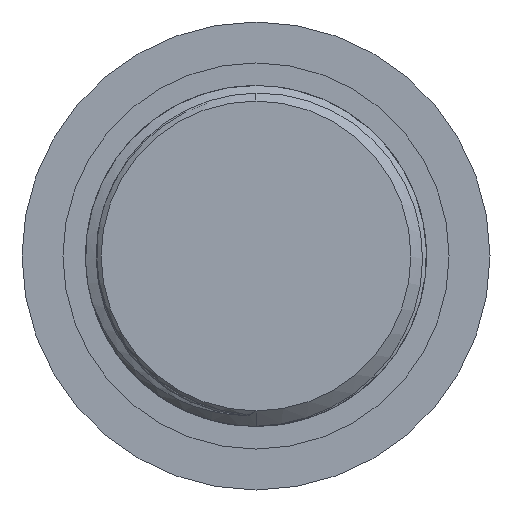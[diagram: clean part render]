
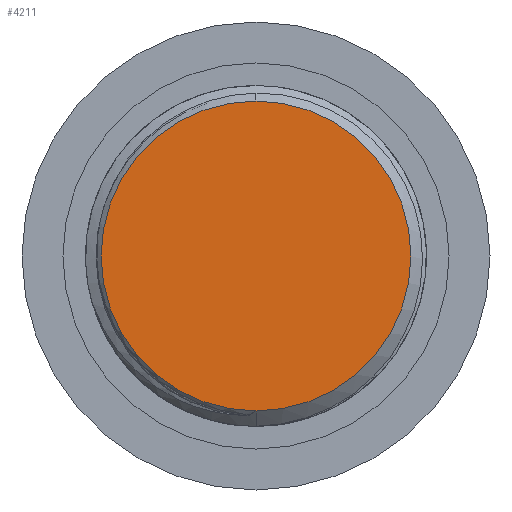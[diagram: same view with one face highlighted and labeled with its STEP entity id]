
A CAD part, left-side view. The second image highlights one B-rep face of the part: STEP entity #4211.
In plain terms, the highlighted planar face has unit normal (-1, 0, 0).
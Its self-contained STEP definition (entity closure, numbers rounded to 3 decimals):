
#54 = CIRCLE ( 'NONE', #14050, 10. ) ;
#120 = PLANE ( 'NONE',  #12498 ) ;
#949 = VERTEX_POINT ( 'NONE', #4731 ) ;
#1772 = EDGE_LOOP ( 'NONE', ( #12050, #12421 ) ) ;
#4211 = ADVANCED_FACE ( 'NONE', ( #10752 ), #120, .T. ) ;
#4512 = CIRCLE ( 'NONE', #6011, 10. ) ;
#4666 = CARTESIAN_POINT ( 'NONE',  ( -52., 0., 10. ) ) ;
#4731 = CARTESIAN_POINT ( 'NONE',  ( -52., 0., -10. ) ) ;
#4746 = CARTESIAN_POINT ( 'NONE',  ( -52., 10., 0. ) ) ;
#6011 = AXIS2_PLACEMENT_3D ( 'NONE', #15201, #9700, #14478 ) ;
#6403 = CARTESIAN_POINT ( 'NONE',  ( -52., 0., 0. ) ) ;
#6681 = EDGE_CURVE ( 'NONE', #949, #15466, #4512, .T. ) ;
#6761 = DIRECTION ( 'NONE',  ( 0., 0., -1. ) ) ;
#6837 = DIRECTION ( 'NONE',  ( 1., 0., 0. ) ) ;
#8495 = DIRECTION ( 'NONE',  ( -1., 0., 0. ) ) ;
#9700 = DIRECTION ( 'NONE',  ( 1., 0., 0. ) ) ;
#10752 = FACE_OUTER_BOUND ( 'NONE', #1772, .T. ) ;
#10910 = DIRECTION ( 'NONE',  ( 0., 0., 1. ) ) ;
#12050 = ORIENTED_EDGE ( 'NONE', *, *, #6681, .F. ) ;
#12421 = ORIENTED_EDGE ( 'NONE', *, *, #12651, .F. ) ;
#12498 = AXIS2_PLACEMENT_3D ( 'NONE', #4746, #8495, #10910 ) ;
#12651 = EDGE_CURVE ( 'NONE', #15466, #949, #54, .T. ) ;
#14050 = AXIS2_PLACEMENT_3D ( 'NONE', #6403, #6837, #6761 ) ;
#14478 = DIRECTION ( 'NONE',  ( 0., 0., -1. ) ) ;
#15201 = CARTESIAN_POINT ( 'NONE',  ( -52., 0., 0. ) ) ;
#15466 = VERTEX_POINT ( 'NONE', #4666 ) ;
